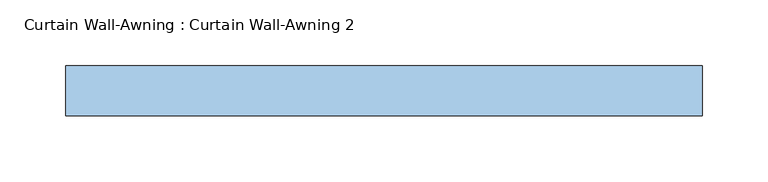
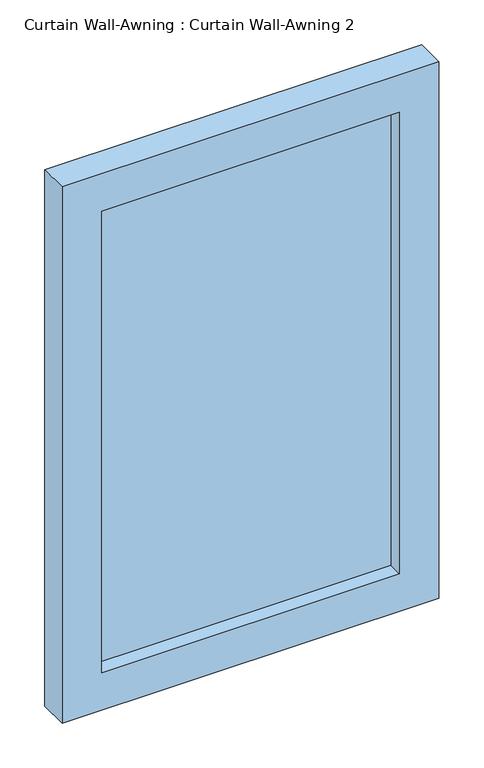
"""IFC4 building model written with IfcOpenShell, lengths in millimetres: window geometry, Curtain Wall-Awning : Curtain Wall-Awning 2."""

from ifc_helpers import new_model, si_unit, frame, origin, place, context, project, spatial, polyline, outline, extrude, source, transform, mapped, element, save


def curtain_wall_awning_curtain_wall_awning_2_ed967b13(model_context):
    return source(origin(), model_context, "Body", "SweptSolid", [
        extrude(outline(polyline([(191.310778, -19.05), (-191.310778, -19.05), (-191.310778, -6.35), (191.310778, -6.35), (191.310778, -19.05)])), frame((0.0, 0.0, 50.8), z_axis=(0.0, 0.0, 1.0), x_axis=(1.0, 0.0, 0.0)), (0.0, 0.0, 1.0), 626.7580049),
        extrude(outline(polyline([(728.3580049, -242.110778), (0.0, -242.110778), (0.0, 242.110778), (728.3580049, 242.110778), (728.3580049, -242.110778)]), holes=[polyline([(677.5580049, -191.310778), (677.5580049, 191.310778), (50.8, 191.310778), (50.8, -191.310778), (677.5580049, -191.310778)])]), frame((0.0, -38.1, 0.0), z_axis=(0.0, 1.0, 0.0), x_axis=(0.0, 0.0, 1.0)), (0.0, 0.0, 1.0), 38.1),
    ])


if __name__ == "__main__":
    model = new_model("IFC4")
    model_context = context("Model", 3, world=origin())
    ifc_project = project(units=[si_unit("LENGTHUNIT", "METRE", prefix="MILLI")], contexts=[model_context])
    site = spatial("IfcSite", under=ifc_project)
    building = spatial("IfcBuilding", under=site)
    placement = place(None, origin())
    curtain_wall_awning_curtain_wall_awning_2_shape = curtain_wall_awning_curtain_wall_awning_2_ed967b13(model_context)
    element("IfcWindow", 1, ObjectType="Curtain Wall-Awning : Curtain Wall-Awning 2", at=placement, inside=building, context=model_context, shape_type="MappedRepresentation", body=[
        mapped(curtain_wall_awning_curtain_wall_awning_2_shape, transform((0.0, 0.0, 0.0), x_axis=(1.0, 0.0, 0.0), y_axis=(0.0, 1.0, 0.0), z_axis=(0.0, 0.0, 1.0))),
    ])
    save(model, "model.ifc")
